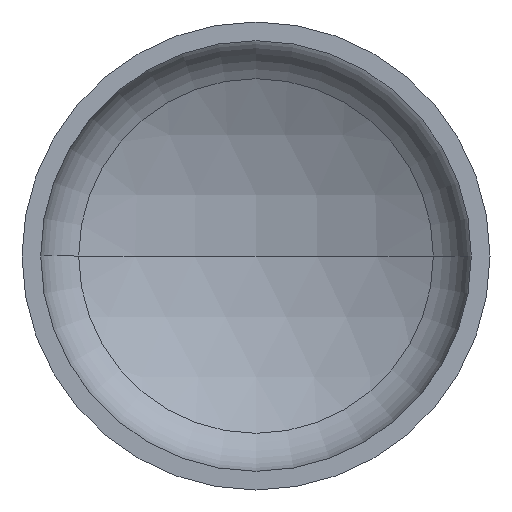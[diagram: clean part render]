
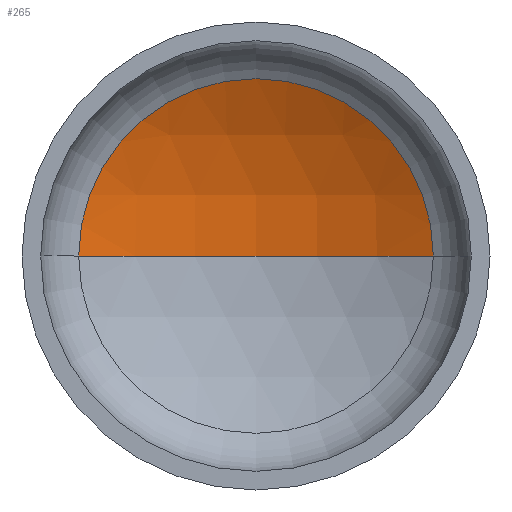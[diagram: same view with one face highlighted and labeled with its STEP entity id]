
A CAD part, front view. The second image highlights one B-rep face of the part: STEP entity #265.
In plain terms, the highlighted spherical face has radius 1920 mm.
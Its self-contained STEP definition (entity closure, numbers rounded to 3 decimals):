
#4 = DIRECTION ( 'NONE',  ( 1., 0., 0. ) ) ;
#10 = DIRECTION ( 'NONE',  ( 0., 0., 1. ) ) ;
#13 = CARTESIAN_POINT ( 'NONE',  ( 0., -1265.19, 0. ) ) ;
#14 = AXIS2_PLACEMENT_3D ( 'NONE', #35, #23, #169 ) ;
#23 = DIRECTION ( 'NONE',  ( 0., 0., -1. ) ) ;
#25 = EDGE_LOOP ( 'NONE', ( #118, #52, #39 ) ) ;
#35 = CARTESIAN_POINT ( 'NONE',  ( 0., -1265.19, 0. ) ) ;
#36 = AXIS2_PLACEMENT_3D ( 'NONE', #13, #10, #4 ) ;
#39 = ORIENTED_EDGE ( 'NONE', *, *, #76, .T. ) ;
#40 = AXIS2_PLACEMENT_3D ( 'NONE', #177, #184, #185 ) ;
#41 = AXIS2_PLACEMENT_3D ( 'NONE', #204, #206, #198 ) ;
#52 = ORIENTED_EDGE ( 'NONE', *, *, #77, .T. ) ;
#74 = VERTEX_POINT ( 'NONE', #367 ) ;
#76 = EDGE_CURVE ( 'NONE', #74, #125, #292, .T. ) ;
#77 = EDGE_CURVE ( 'NONE', #160, #74, #242, .T. ) ;
#84 = EDGE_CURVE ( 'NONE', #160, #125, #411, .T. ) ;
#118 = ORIENTED_EDGE ( 'NONE', *, *, #84, .F. ) ;
#125 = VERTEX_POINT ( 'NONE', #212 ) ;
#160 = VERTEX_POINT ( 'NONE', #325 ) ;
#169 = DIRECTION ( 'NONE',  ( -1., 0., 0. ) ) ;
#177 = CARTESIAN_POINT ( 'NONE',  ( 0., -1265.19, 0. ) ) ;
#184 = DIRECTION ( 'NONE',  ( 0., 0., -1. ) ) ;
#185 = DIRECTION ( 'NONE',  ( -1., 0., 0. ) ) ;
#198 = DIRECTION ( 'NONE',  ( 1., 0., 0. ) ) ;
#204 = CARTESIAN_POINT ( 'NONE',  ( 0., 425.884, 0. ) ) ;
#206 = DIRECTION ( 'NONE',  ( 0., -1., 0. ) ) ;
#212 = CARTESIAN_POINT ( 'NONE',  ( -909.213, 425.884, 0. ) ) ;
#213 = SPHERICAL_SURFACE ( 'NONE', #14, 1920. ) ;
#242 = CIRCLE ( 'NONE', #40, 1920. ) ;
#265 = ADVANCED_FACE ( 'NONE', ( #335 ), #213, .F. ) ;
#292 = CIRCLE ( 'NONE', #41, 909.213 ) ;
#325 = CARTESIAN_POINT ( 'NONE',  ( 0., 654.81, 0. ) ) ;
#335 = FACE_OUTER_BOUND ( 'NONE', #25, .T. ) ;
#367 = CARTESIAN_POINT ( 'NONE',  ( 909.213, 425.884, 0. ) ) ;
#411 = CIRCLE ( 'NONE', #36, 1920. ) ;
